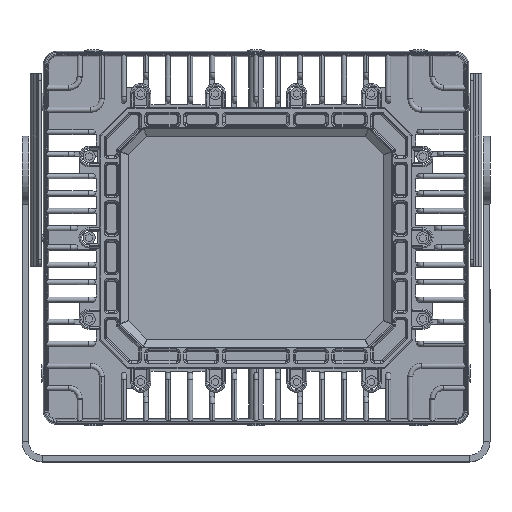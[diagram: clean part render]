
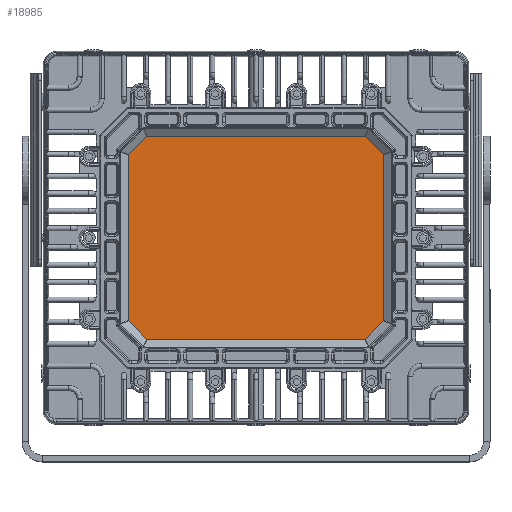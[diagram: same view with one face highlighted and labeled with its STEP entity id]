
A CAD part, top view. The second image highlights one B-rep face of the part: STEP entity #18985.
In plain terms, the highlighted planar face has unit normal (0, 0, 1).
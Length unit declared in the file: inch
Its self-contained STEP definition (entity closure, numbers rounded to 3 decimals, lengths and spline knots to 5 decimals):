
#732 = CARTESIAN_POINT ( 'NONE',  ( -4.01924, 3.73875, 0.55 ) ) ;
#1391 = EDGE_CURVE ( 'NONE', #71578, #116303, #12135, .T. ) ;
#5006 = CARTESIAN_POINT ( 'NONE',  ( 4.01924, -3.73875, 0.55 ) ) ;
#8410 = ORIENTED_EDGE ( 'NONE', *, *, #66930, .T. ) ;
#10831 = CARTESIAN_POINT ( 'NONE',  ( 4.705, -3.05299, 0.55 ) ) ;
#12135 = LINE ( 'NONE', #34064, #81753 ) ;
#13185 = VECTOR ( 'NONE', #80883, 39.37008 ) ;
#14859 = ORIENTED_EDGE ( 'NONE', *, *, #97315, .T. ) ;
#15209 = ORIENTED_EDGE ( 'NONE', *, *, #70935, .T. ) ;
#15695 = EDGE_CURVE ( 'NONE', #96466, #92245, #61968, .T. ) ;
#18985 = ADVANCED_FACE ( 'NONE', ( #79839 ), #40951, .T. ) ;
#20147 = VECTOR ( 'NONE', #22921, 39.37008 ) ;
#22921 = DIRECTION ( 'NONE',  ( -1., 0., 0. ) ) ;
#25157 = CARTESIAN_POINT ( 'NONE',  ( 4.705, 3.05299, 0.55 ) ) ;
#29939 = ORIENTED_EDGE ( 'NONE', *, *, #109640, .T. ) ;
#32274 = CARTESIAN_POINT ( 'NONE',  ( 0., 7.75799, 0.55 ) ) ;
#34064 = CARTESIAN_POINT ( 'NONE',  ( -4.705, 3.05299, 0.55 ) ) ;
#34201 = DIRECTION ( 'NONE',  ( 0., 1., 0. ) ) ;
#35013 = VECTOR ( 'NONE', #57282, 39.37008 ) ;
#36505 = VECTOR ( 'NONE', #34201, 39.37008 ) ;
#40951 = PLANE ( 'NONE',  #69571 ) ;
#41364 = DIRECTION ( 'NONE',  ( 1., 0., 0. ) ) ;
#44292 = LINE ( 'NONE', #95644, #20147 ) ;
#49903 = CARTESIAN_POINT ( 'NONE',  ( -4.705, 3.05299, 0.55 ) ) ;
#53185 = LINE ( 'NONE', #92644, #74479 ) ;
#53479 = CARTESIAN_POINT ( 'NONE',  ( -4.705, -3.05299, 0.55 ) ) ;
#55307 = EDGE_CURVE ( 'NONE', #90238, #73025, #67906, .T. ) ;
#56365 = EDGE_CURVE ( 'NONE', #92245, #117776, #114273, .T. ) ;
#56512 = CARTESIAN_POINT ( 'NONE',  ( -4.01924, -3.73875, 0.55 ) ) ;
#57282 = DIRECTION ( 'NONE',  ( 1., 0., 0. ) ) ;
#58099 = CARTESIAN_POINT ( 'NONE',  ( 4.705, 3.05299, 0.55 ) ) ;
#61760 = ORIENTED_EDGE ( 'NONE', *, *, #55307, .T. ) ;
#61968 = LINE ( 'NONE', #56512, #35013 ) ;
#66930 = EDGE_CURVE ( 'NONE', #73025, #93539, #44292, .T. ) ;
#67906 = LINE ( 'NONE', #25157, #89275 ) ;
#69571 = AXIS2_PLACEMENT_3D ( 'NONE', #32274, #95805, #41364 ) ;
#70233 = ORIENTED_EDGE ( 'NONE', *, *, #1391, .T. ) ;
#70935 = EDGE_CURVE ( 'NONE', #93539, #71578, #53185, .T. ) ;
#71578 = VERTEX_POINT ( 'NONE', #49903 ) ;
#72914 = CARTESIAN_POINT ( 'NONE',  ( -4.01924, -3.73875, 0.55 ) ) ;
#73025 = VERTEX_POINT ( 'NONE', #100899 ) ;
#74479 = VECTOR ( 'NONE', #110943, 39.37008 ) ;
#79411 = CARTESIAN_POINT ( 'NONE',  ( 4.705, -3.05299, 0.55 ) ) ;
#79527 = DIRECTION ( 'NONE',  ( -0.707, 0.707, 0. ) ) ;
#79839 = FACE_OUTER_BOUND ( 'NONE', #97285, .T. ) ;
#80883 = DIRECTION ( 'NONE',  ( 0.707, -0.707, 0. ) ) ;
#81753 = VECTOR ( 'NONE', #88504, 39.37008 ) ;
#85666 = LINE ( 'NONE', #53479, #13185 ) ;
#88504 = DIRECTION ( 'NONE',  ( 0., -1., 0. ) ) ;
#89275 = VECTOR ( 'NONE', #79527, 39.37008 ) ;
#90067 = VECTOR ( 'NONE', #96013, 39.37008 ) ;
#90238 = VERTEX_POINT ( 'NONE', #58099 ) ;
#90315 = ORIENTED_EDGE ( 'NONE', *, *, #56365, .T. ) ;
#92245 = VERTEX_POINT ( 'NONE', #109507 ) ;
#92644 = CARTESIAN_POINT ( 'NONE',  ( -4.01924, 3.73875, 0.55 ) ) ;
#93539 = VERTEX_POINT ( 'NONE', #732 ) ;
#95644 = CARTESIAN_POINT ( 'NONE',  ( 4.01924, 3.73875, 0.55 ) ) ;
#95805 = DIRECTION ( 'NONE',  ( 0., 0., 1. ) ) ;
#96013 = DIRECTION ( 'NONE',  ( 0.707, 0.707, 0. ) ) ;
#96466 = VERTEX_POINT ( 'NONE', #72914 ) ;
#97285 = EDGE_LOOP ( 'NONE', ( #61760, #8410, #15209, #70233, #29939, #116574, #90315, #14859 ) ) ;
#97315 = EDGE_CURVE ( 'NONE', #117776, #90238, #111855, .T. ) ;
#100899 = CARTESIAN_POINT ( 'NONE',  ( 4.01924, 3.73875, 0.55 ) ) ;
#105406 = CARTESIAN_POINT ( 'NONE',  ( -4.705, -3.05299, 0.55 ) ) ;
#109507 = CARTESIAN_POINT ( 'NONE',  ( 4.01924, -3.73875, 0.55 ) ) ;
#109640 = EDGE_CURVE ( 'NONE', #116303, #96466, #85666, .T. ) ;
#110943 = DIRECTION ( 'NONE',  ( -0.707, -0.707, 0. ) ) ;
#111855 = LINE ( 'NONE', #79411, #36505 ) ;
#114273 = LINE ( 'NONE', #5006, #90067 ) ;
#116303 = VERTEX_POINT ( 'NONE', #105406 ) ;
#116574 = ORIENTED_EDGE ( 'NONE', *, *, #15695, .T. ) ;
#117776 = VERTEX_POINT ( 'NONE', #10831 ) ;
